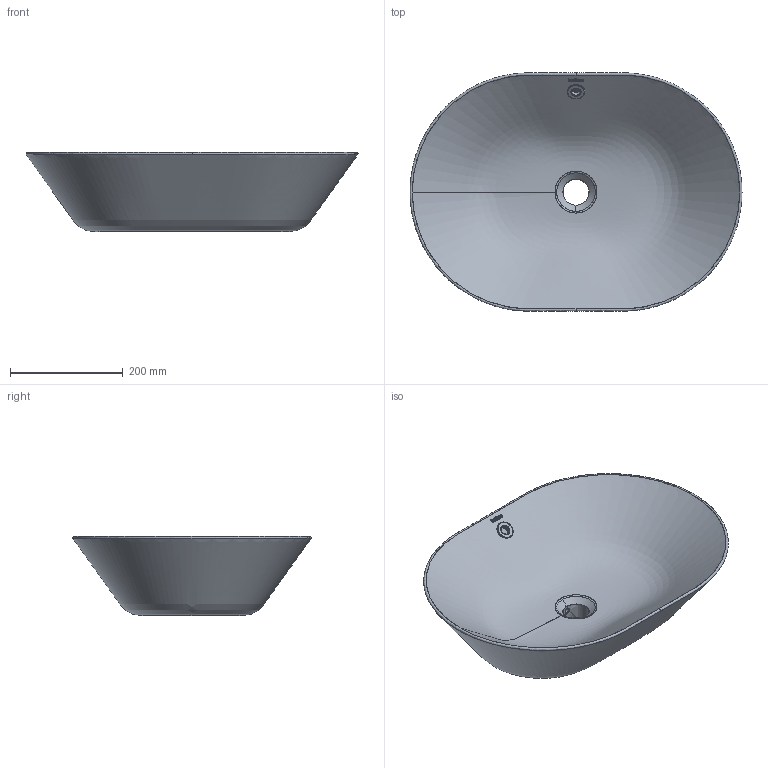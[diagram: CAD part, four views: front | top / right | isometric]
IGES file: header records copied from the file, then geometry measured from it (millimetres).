
Global section: file name: D:\Renovando Conceptos\Trabajos Varios\BathCo\47 Biblioteca Lavabos 3D\4038 New Toulouse\4038_New Toulouse.igs; native system: Rhinoceros ( Feb 26 2015 ); preprocessor: Trout Lake IGES 012 Feb 26 2015; date: 200611.064342; units: millimetre
Bounding box: 587.98 x 422.04 x 140.02 mm (x, y, z)
Surface area: 1022204.9 mm2 (no closed solid volume)
Topology: 0 solids, 0 shells, 149 faces, 1649 edges, 1638 vertices
Faces by surface type: bspline 149
